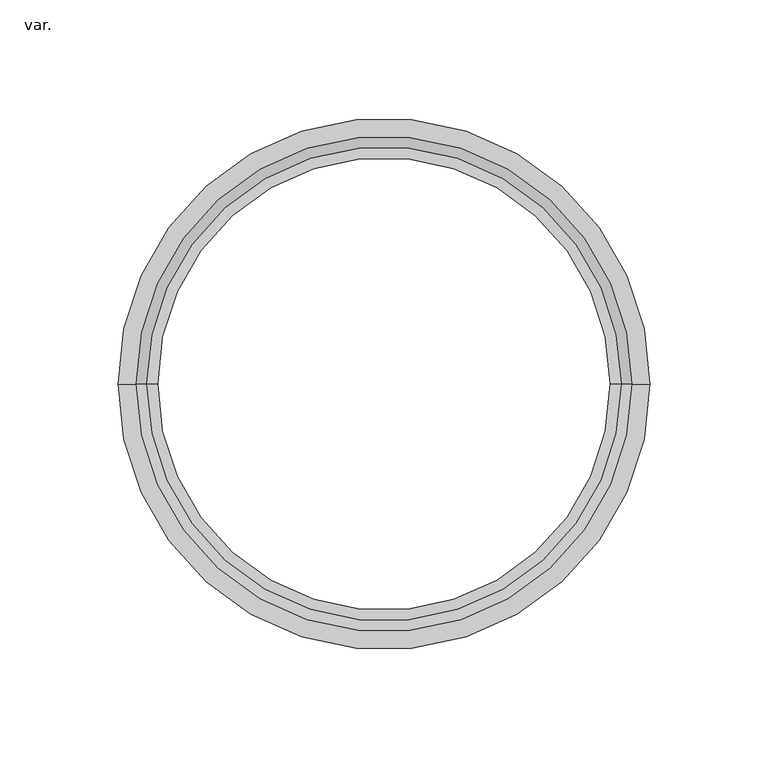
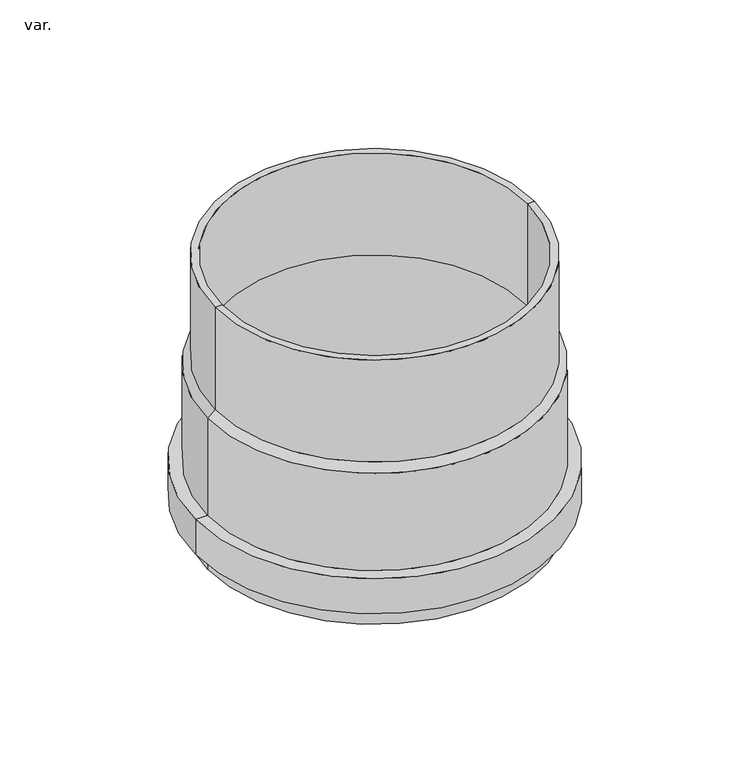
"""IFC4 building model written with IfcOpenShell, lengths in millimetres: pipe fitting geometry, AmancoWavin_ConexõesdeTubos_SaneamentoEsgotoNãoUsarProlongamento : var.."""

from ifc_helpers import new_model, si_unit, frame, origin, place, context, project, spatial, polyline, circle_curve, source, transform, mapped, element, save
from ifc_brep_helpers import plane_surface, cylinder_surface, revolved_surface, advanced_brep


def var_270639b3(model_context):
    return source(origin(), model_context, "Body", "AdvancedBrep", [
        advanced_brep(
        [(100.425, 0.0, 104.5), (-100.425, 0.0, 104.5), (-100.425, 0.0, 172.155), (100.425, 0.0, 172.155), (95.925, 0.0, 104.5), (-95.925, 0.0, 104.5), (95.925, 0.0, 172.155), (-95.925, 0.0, 172.155)],
        [
            (0, 1, circle_curve(frame((0.0, 0.0, 104.5), z_axis=(0.0, 0.0, 1.0), x_axis=(-1.0, 0.0, 0.0)), 100.425)),
            (1, 2),
            (2, 3, circle_curve(frame((0.0, 0.0, 172.155), z_axis=(0.0, 0.0, -1.0), x_axis=(-1.0, 0.0, 0.0)), 100.425)),
            (3, 0),
            (1, 0, circle_curve(frame((0.0, 0.0, 104.5), z_axis=(0.0, 0.0, 1.0), x_axis=(-1.0, 0.0, 0.0)), 100.425)),
            (3, 2, circle_curve(frame((0.0, 0.0, 172.155), z_axis=(0.0, 0.0, -1.0), x_axis=(-1.0, 0.0, 0.0)), 100.425)),
            (4, 5, circle_curve(frame((0.0, 0.0, 104.5), z_axis=(0.0, 0.0, 1.0), x_axis=(-1.0, 0.0, 0.0)), 95.925)),
            (5, 1),
            (0, 4),
            (5, 4, circle_curve(frame((0.0, 0.0, 104.5), z_axis=(0.0, 0.0, 1.0), x_axis=(-1.0, 0.0, 0.0)), 95.925)),
            (6, 7, circle_curve(frame((0.0, 0.0, 172.155), z_axis=(0.0, 0.0, 1.0), x_axis=(-1.0, 0.0, 0.0)), 95.925)),
            (7, 5),
            (4, 6),
            (7, 6, circle_curve(frame((0.0, 0.0, 172.155), z_axis=(0.0, 0.0, 1.0), x_axis=(-1.0, 0.0, 0.0)), 95.925)),
            (2, 7),
            (6, 3),
        ],
        [
            cylinder_surface(frame((0.0, 0.0, 1654.7700031), z_axis=(0.0, 0.0, -1.0), x_axis=(-1.0, 0.0, 0.0)), 100.425),
            plane_surface(frame((0.0, 0.0, 104.5), z_axis=(0.0, 0.0, -1.0), x_axis=(-1.0, 0.0, 0.0))),
            revolved_surface(polyline([(-95.925, 0.0, 104.5), (-95.925, 0.0, 172.15499999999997)]), (0.0, 0.0, 1654.7700031), (0.0, 0.0, -1.0)),
            plane_surface(frame((0.0, 0.0, 172.155), z_axis=(0.0, 0.0, 1.0), x_axis=(-1.0, 0.0, 0.0))),
        ],
        [
            (0, [[1, 2, 3, 4]]),
            (0, [[5, -4, 6, -2]]),
            (1, [[7, 8, -1, 9]]),
            (1, [[10, -9, -5, -8]]),
            (2, [[11, 12, -7, 13]]),
            (2, [[14, -13, -10, -12]]),
            (3, [[-3, 15, -11, 16]]),
            (3, [[-6, -16, -14, -15]]),
        ],
    ),
        advanced_brep(
        [(104.925, 0.0, 0.0), (-104.925, 0.0, 0.0), (-104.925, 0.0, 12.4), (104.925, 0.0, 12.4), (100.425, 0.0, 0.0), (-100.425, 0.0, 0.0), (100.425, 0.0, 16.9), (-100.425, 0.0, 16.9), (108.15, 0.0, 16.9), (-108.15, 0.0, 16.9), (108.15, 0.0, 31.1), (-108.15, 0.0, 31.1), (100.425, 0.0, 31.1), (-100.425, 0.0, 31.1), (100.425, 0.0, 104.5), (-100.425, 0.0, 104.5), (104.925, 0.0, 35.6), (-104.925, 0.0, 35.6), (-104.925, 0.0, 100.0), (104.925, 0.0, 100.0), (112.65, 0.0, 35.6), (-112.65, 0.0, 35.6), (112.65, 0.0, 12.4), (-112.65, 0.0, 12.4)],
        [
            (0, 1, circle_curve(frame((0.0, 0.0, 0.0), z_axis=(0.0, 0.0, 1.0), x_axis=(-1.0, 0.0, 0.0)), 104.925)),
            (1, 2),
            (2, 3, circle_curve(frame((0.0, 0.0, 12.4), z_axis=(0.0, 0.0, -1.0), x_axis=(-1.0, 0.0, 0.0)), 104.925)),
            (3, 0),
            (1, 0, circle_curve(frame((0.0, 0.0, 0.0), z_axis=(0.0, 0.0, 1.0), x_axis=(-1.0, 0.0, 0.0)), 104.925)),
            (3, 2, circle_curve(frame((0.0, 0.0, 12.4), z_axis=(0.0, 0.0, -1.0), x_axis=(-1.0, 0.0, 0.0)), 104.925)),
            (4, 5, circle_curve(frame((0.0, 0.0, 0.0), z_axis=(0.0, 0.0, 1.0), x_axis=(-1.0, 0.0, 0.0)), 100.425)),
            (5, 1),
            (0, 4),
            (5, 4, circle_curve(frame((0.0, 0.0, 0.0), z_axis=(0.0, 0.0, 1.0), x_axis=(-1.0, 0.0, 0.0)), 100.425)),
            (6, 7, circle_curve(frame((0.0, 0.0, 16.9), z_axis=(0.0, 0.0, 1.0), x_axis=(-1.0, 0.0, 0.0)), 100.425)),
            (7, 5),
            (4, 6),
            (7, 6, circle_curve(frame((0.0, 0.0, 16.9), z_axis=(0.0, 0.0, 1.0), x_axis=(-1.0, 0.0, 0.0)), 100.425)),
            (8, 9, circle_curve(frame((0.0, 0.0, 16.9), z_axis=(0.0, 0.0, 1.0), x_axis=(-1.0, 0.0, 0.0)), 108.15)),
            (9, 7),
            (6, 8),
            (9, 8, circle_curve(frame((0.0, 0.0, 16.9), z_axis=(0.0, 0.0, 1.0), x_axis=(-1.0, 0.0, 0.0)), 108.15)),
            (10, 11, circle_curve(frame((0.0, 0.0, 31.1), z_axis=(0.0, 0.0, 1.0), x_axis=(-1.0, 0.0, 0.0)), 108.15)),
            (11, 9),
            (8, 10),
            (11, 10, circle_curve(frame((0.0, 0.0, 31.1), z_axis=(0.0, 0.0, 1.0), x_axis=(-1.0, 0.0, 0.0)), 108.15)),
            (12, 13, circle_curve(frame((0.0, 0.0, 31.1), z_axis=(0.0, 0.0, 1.0), x_axis=(-1.0, 0.0, 0.0)), 100.425)),
            (13, 11),
            (10, 12),
            (13, 12, circle_curve(frame((0.0, 0.0, 31.1), z_axis=(0.0, 0.0, 1.0), x_axis=(-1.0, 0.0, 0.0)), 100.425)),
            (14, 15, circle_curve(frame((0.0, 0.0, 104.5), z_axis=(0.0, 0.0, 1.0), x_axis=(-1.0, 0.0, 0.0)), 100.425)),
            (15, 13),
            (12, 14),
            (15, 14, circle_curve(frame((0.0, 0.0, 104.5), z_axis=(0.0, 0.0, 1.0), x_axis=(-1.0, 0.0, 0.0)), 100.425)),
            (16, 17, circle_curve(frame((0.0, 0.0, 35.6), z_axis=(0.0, 0.0, 1.0), x_axis=(-1.0, 0.0, 0.0)), 104.925)),
            (17, 18),
            (18, 19, circle_curve(frame((0.0, 0.0, 100.0), z_axis=(0.0, 0.0, -1.0), x_axis=(-1.0, 0.0, 0.0)), 104.925)),
            (19, 16),
            (17, 16, circle_curve(frame((0.0, 0.0, 35.6), z_axis=(0.0, 0.0, 1.0), x_axis=(-1.0, 0.0, 0.0)), 104.925)),
            (19, 18, circle_curve(frame((0.0, 0.0, 100.0), z_axis=(0.0, 0.0, -1.0), x_axis=(-1.0, 0.0, 0.0)), 104.925)),
            (20, 21, circle_curve(frame((0.0, 0.0, 35.6), z_axis=(0.0, 0.0, 1.0), x_axis=(-1.0, 0.0, 0.0)), 112.65)),
            (21, 17),
            (16, 20),
            (21, 20, circle_curve(frame((0.0, 0.0, 35.6), z_axis=(0.0, 0.0, 1.0), x_axis=(-1.0, 0.0, 0.0)), 112.65)),
            (22, 23, circle_curve(frame((0.0, 0.0, 12.4), z_axis=(0.0, 0.0, 1.0), x_axis=(-1.0, 0.0, 0.0)), 112.65)),
            (23, 21),
            (20, 22),
            (23, 22, circle_curve(frame((0.0, 0.0, 12.4), z_axis=(0.0, 0.0, 1.0), x_axis=(-1.0, 0.0, 0.0)), 112.65)),
            (2, 23),
            (22, 3),
            (18, 15),
            (14, 19),
        ],
        [
            cylinder_surface(frame((0.0, 0.0, 2296.3137864), z_axis=(0.0, 0.0, -1.0), x_axis=(-1.0, 0.0, 0.0)), 104.925),
            plane_surface(frame((0.0, 0.0, 0.0), z_axis=(0.0, 0.0, -1.0), x_axis=(-1.0, 0.0, 0.0))),
            revolved_surface(polyline([(-100.425, 0.0, 0.0), (-100.425, 0.0, 16.90000000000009)]), (0.0, 0.0, 2296.3137864), (0.0, 0.0, -1.0)),
            plane_surface(frame((0.0, 0.0, 16.9), z_axis=(0.0, 0.0, 1.0), x_axis=(-1.0, 0.0, 0.0))),
            revolved_surface(polyline([(-108.15, 0.0, 16.90000000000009), (-108.15, 0.0, 31.09999999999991)]), (0.0, 0.0, 2296.3137864), (0.0, 0.0, -1.0)),
            plane_surface(frame((0.0, 0.0, 31.1), z_axis=(0.0, 0.0, -1.0), x_axis=(-1.0, 0.0, 0.0))),
            revolved_surface(polyline([(-100.425, 0.0, 31.09999999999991), (-100.425, 0.0, 104.5)]), (0.0, 0.0, 2296.3137864), (0.0, 0.0, -1.0)),
            plane_surface(frame((0.0, 0.0, 35.6), z_axis=(0.0, 0.0, 1.0), x_axis=(-1.0, 0.0, 0.0))),
            cylinder_surface(frame((0.0, 0.0, 2296.3137864), z_axis=(0.0, 0.0, -1.0), x_axis=(-1.0, 0.0, 0.0)), 112.65),
            plane_surface(frame((0.0, 0.0, 12.4), z_axis=(0.0, 0.0, -1.0), x_axis=(-1.0, 0.0, 0.0))),
            revolved_surface(polyline([(-100.425, 0.0, 104.5), (-104.925, 0.0, 100.0)]), (0.0, 0.0, 2296.3137864), (0.0, 0.0, -1.0)),
        ],
        [
            (0, [[1, 2, 3, 4]]),
            (0, [[5, -4, 6, -2]]),
            (1, [[7, 8, -1, 9]]),
            (1, [[10, -9, -5, -8]]),
            (2, [[11, 12, -7, 13]]),
            (2, [[14, -13, -10, -12]]),
            (3, [[15, 16, -11, 17]]),
            (3, [[18, -17, -14, -16]]),
            (4, [[19, 20, -15, 21]]),
            (4, [[22, -21, -18, -20]]),
            (5, [[23, 24, -19, 25]]),
            (5, [[26, -25, -22, -24]]),
            (6, [[27, 28, -23, 29]]),
            (6, [[30, -29, -26, -28]]),
            (0, [[31, 32, 33, 34]]),
            (0, [[35, -34, 36, -32]]),
            (7, [[37, 38, -31, 39]]),
            (7, [[40, -39, -35, -38]]),
            (8, [[41, 42, -37, 43]]),
            (8, [[44, -43, -40, -42]]),
            (9, [[-3, 45, -41, 46]]),
            (9, [[-6, -46, -44, -45]]),
            (10, [[-33, 47, -27, 48]]),
            (10, [[-36, -48, -30, -47]]),
        ],
    ),
    ])


if __name__ == "__main__":
    model = new_model("IFC4")
    model_context = context("Model", 3, world=origin())
    ifc_project = project(units=[si_unit("LENGTHUNIT", "METRE", prefix="MILLI")], contexts=[model_context])
    site = spatial("IfcSite", under=ifc_project)
    building = spatial("IfcBuilding", under=site)
    placement = place(None, origin())
    var_shape = var_270639b3(model_context)
    element("IfcPipeFitting", 1, ObjectType="AmancoWavin_ConexõesdeTubos_SaneamentoEsgotoNãoUsarProlongamento : var.", at=placement, inside=building, context=model_context, shape_type="MappedRepresentation", body=[
        mapped(var_shape, transform((0.0, 0.0, 0.0), x_axis=(1.0, 0.0, 0.0), y_axis=(0.0, 1.0, 0.0), z_axis=(0.0, 0.0, 1.0))),
    ])
    save(model, "model.ifc")
